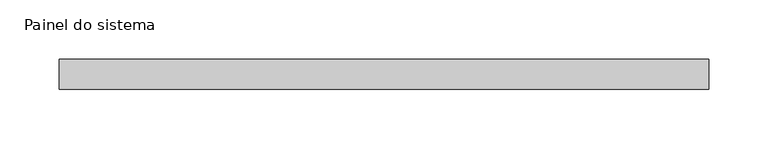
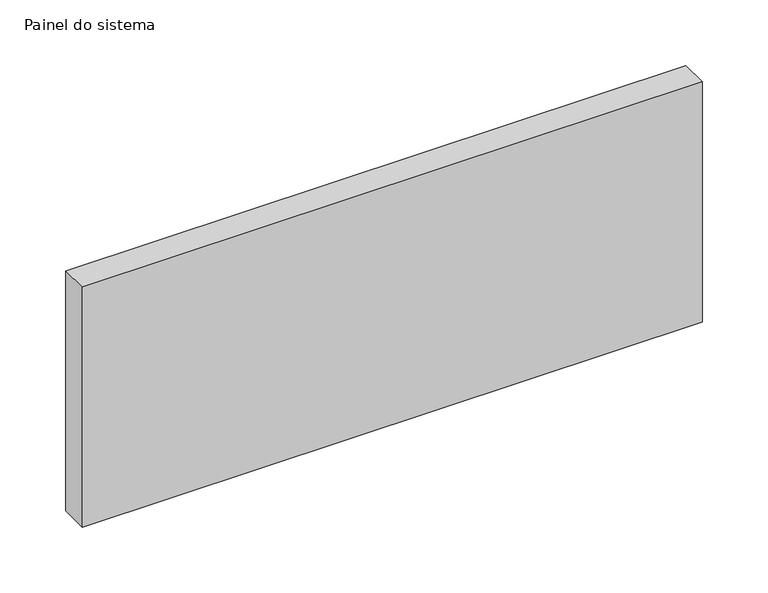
"""IFC4 building model written with IfcOpenShell, lengths in millimetres: plate geometry, Painel do sistema : Envidraçado."""

from ifc_helpers import new_model, si_unit, origin, origin_with_axes, place, context, project, spatial, polyline, outline, extrude, source, transform, mapped, element, save


def painel_do_sistema_7248fcca(model_context):
    return source(origin(), model_context, "Body", "SweptSolid", [
        extrude(outline(polyline([(272.9166667, 24.5), (-272.9166667, 24.5), (-272.9166667, 49.5), (272.9166667, 49.5), (272.9166667, 24.5)])), origin_with_axes(), (0.0, 0.0, 1.0), 223.6217085),
    ])


if __name__ == "__main__":
    model = new_model("IFC4")
    model_context = context("Model", 3, world=origin())
    ifc_project = project(units=[si_unit("LENGTHUNIT", "METRE", prefix="MILLI")], contexts=[model_context])
    site = spatial("IfcSite", under=ifc_project)
    building = spatial("IfcBuilding", under=site)
    placement = place(None, origin())
    painel_do_sistema_shape = painel_do_sistema_7248fcca(model_context)
    element("IfcPlate", 1, ObjectType="Painel do sistema : Envidraçado", at=placement, inside=building, context=model_context, shape_type="MappedRepresentation", body=[
        mapped(painel_do_sistema_shape, transform((0.0, 0.0, 0.0), x_axis=(1.0, 0.0, 0.0), y_axis=(0.0, 1.0, 0.0), z_axis=(0.0, 0.0, 1.0))),
    ])
    save(model, "model.ifc")
